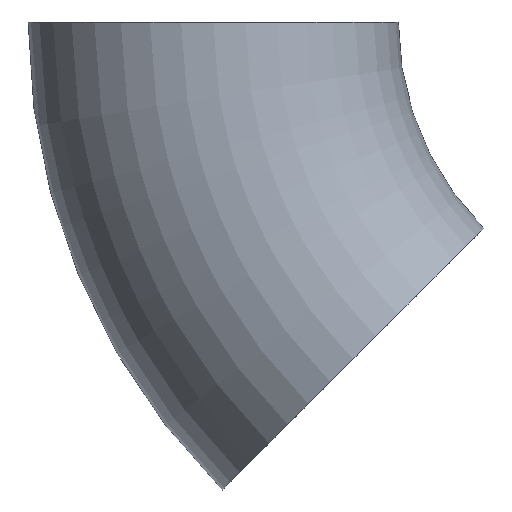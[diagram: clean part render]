
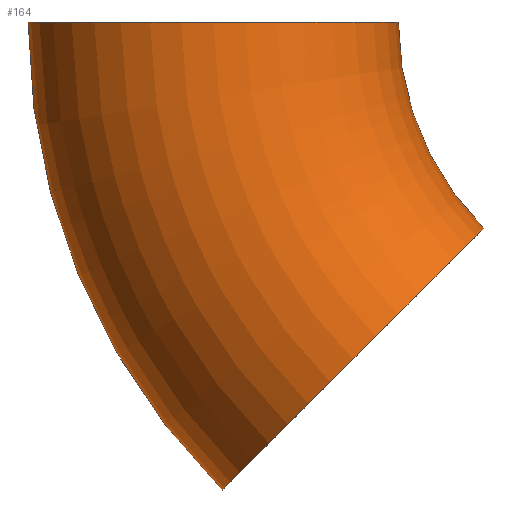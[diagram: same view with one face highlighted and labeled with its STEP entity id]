
A CAD part, front view. The second image highlights one B-rep face of the part: STEP entity #164.
In plain terms, the highlighted toroidal (fillet/blend) face has major radius 114.5 mm and minor radius 44.45 mm.
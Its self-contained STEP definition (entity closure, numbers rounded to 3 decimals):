
#16 = EDGE_CURVE ( 'NONE', #204, #175, #92, .T. ) ;
#17 = CIRCLE ( 'NONE', #186, 44.45 ) ;
#19 = DIRECTION ( 'NONE',  ( 0., 1., 0. ) ) ;
#21 = EDGE_LOOP ( 'NONE', ( #209, #68, #201, #129 ) ) ;
#43 = DIRECTION ( 'NONE',  ( 0., 0., 1. ) ) ;
#65 = FACE_OUTER_BOUND ( 'NONE', #21, .T. ) ;
#68 = ORIENTED_EDGE ( 'NONE', *, *, #252, .T. ) ;
#75 = EDGE_CURVE ( 'NONE', #175, #246, #244, .T. ) ;
#77 = DIRECTION ( 'NONE',  ( 0., 1., 0. ) ) ;
#80 = DIRECTION ( 'NONE',  ( 0., 1., 0. ) ) ;
#92 = CIRCLE ( 'NONE', #250, 158.95 ) ;
#93 = CARTESIAN_POINT ( 'NONE',  ( -114.5, 0., 0. ) ) ;
#101 = CARTESIAN_POINT ( 'NONE',  ( -49.533, 0., -49.533 ) ) ;
#106 = CARTESIAN_POINT ( 'NONE',  ( 0., 0., 0. ) ) ;
#112 = VERTEX_POINT ( 'NONE', #101 ) ;
#117 = TOROIDAL_SURFACE ( 'NONE', #163, 114.5, 44.45 ) ;
#125 = DIRECTION ( 'NONE',  ( 0., 0., 1. ) ) ;
#127 = CARTESIAN_POINT ( 'NONE',  ( -158.95, 0., 0. ) ) ;
#128 = AXIS2_PLACEMENT_3D ( 'NONE', #106, #19, #43 ) ;
#129 = ORIENTED_EDGE ( 'NONE', *, *, #75, .F. ) ;
#138 = DIRECTION ( 'NONE',  ( 0., 0., 1. ) ) ;
#141 = CARTESIAN_POINT ( 'NONE',  ( 0., 0., 0. ) ) ;
#152 = CARTESIAN_POINT ( 'NONE',  ( 0., 0., 0. ) ) ;
#155 = DIRECTION ( 'NONE',  ( -0.707, 0., 0.707 ) ) ;
#163 = AXIS2_PLACEMENT_3D ( 'NONE', #141, #80, #125 ) ;
#164 = ADVANCED_FACE ( 'NONE', ( #65 ), #117, .T. ) ;
#175 = VERTEX_POINT ( 'NONE', #127 ) ;
#179 = DIRECTION ( 'NONE',  ( 0.707, 0., 0.707 ) ) ;
#186 = AXIS2_PLACEMENT_3D ( 'NONE', #234, #155, #179 ) ;
#188 = DIRECTION ( 'NONE',  ( 1., 0., 0. ) ) ;
#198 = CARTESIAN_POINT ( 'NONE',  ( -112.395, 0., -112.395 ) ) ;
#199 = CIRCLE ( 'NONE', #128, 70.05 ) ;
#201 = ORIENTED_EDGE ( 'NONE', *, *, #208, .T. ) ;
#204 = VERTEX_POINT ( 'NONE', #198 ) ;
#208 = EDGE_CURVE ( 'NONE', #112, #246, #199, .T. ) ;
#209 = ORIENTED_EDGE ( 'NONE', *, *, #16, .F. ) ;
#210 = DIRECTION ( 'NONE',  ( 0., 0., 1. ) ) ;
#213 = AXIS2_PLACEMENT_3D ( 'NONE', #93, #210, #188 ) ;
#218 = CARTESIAN_POINT ( 'NONE',  ( -70.05, 0., 0. ) ) ;
#234 = CARTESIAN_POINT ( 'NONE',  ( -80.964, 0., -80.964 ) ) ;
#244 = CIRCLE ( 'NONE', #213, 44.45 ) ;
#246 = VERTEX_POINT ( 'NONE', #218 ) ;
#250 = AXIS2_PLACEMENT_3D ( 'NONE', #152, #77, #138 ) ;
#252 = EDGE_CURVE ( 'NONE', #204, #112, #17, .T. ) ;
